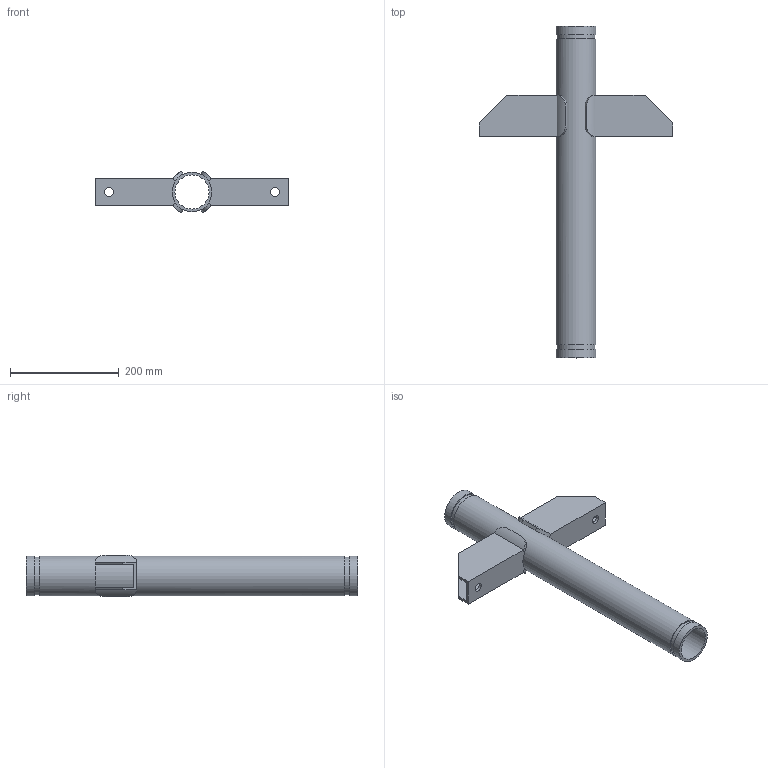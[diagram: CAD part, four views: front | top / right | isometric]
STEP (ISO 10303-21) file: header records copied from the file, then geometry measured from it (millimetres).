
FILE_DESCRIPTION(/* description */ ('VIC Floor-Mounted Carbon Steel Riser Anchor No A10','CAx-IF Rec.Pracs.---Representation and Presentation of Product Manufacturing Information (PMI)---4.0---2014-10-13'),/* implementation_level */ '2;1');
FILE_NAME(/* name */ 'C:\Users\kkamble\AppData\Roaming\Autodesk\ApplicationPlugins\Back Up\Victaulic_SS-OGS_Riser Anchor_No A10 (OGS)\Victaulic_SS-OGS_Riser Anchor_No A10 (OGS)_2.5 (65).stp',/* time_stamp */ '2020-08-25T18:06:38+06:00',/* author */ ('kkamble'),/* organization */ ('Victaulic'),/* preprocessor_version */ 'ST-DEVELOPER v17.2',/* originating_system */ 'Autodesk Inventor 2019',/* authorisation */ '');
FILE_SCHEMA (('AP242_MANAGED_MODEL_BASED_3D_ENGINEERING_MIM_LF { 1 0 10303 442 1 1 4 }'));
Length unit declared in the file: inch
Products named in the file (1): A10S-02.5
Bounding box: 355.6 x 609.6 x 76.2 mm (x, y, z)
Volume: 990466.3 mm3; surface area: 369411.8 mm2
Topology: 1 solids, 1 shells, 52 faces, 147 edges, 102 vertices
Faces by surface type: plane 30, cylinder 22
Full cylindrical faces by diameter (mm): 15.875 x2, 62.713 x1, 69.088 x2, 73.025 x3
Entity records: 2165 total; most frequent: CARTESIAN_POINT 607, DIRECTION 309, ORIENTED_EDGE 294, EDGE_CURVE 147, AXIS2_PLACEMENT_3D 112, VERTEX_POINT 102, LINE 85, VECTOR 85
